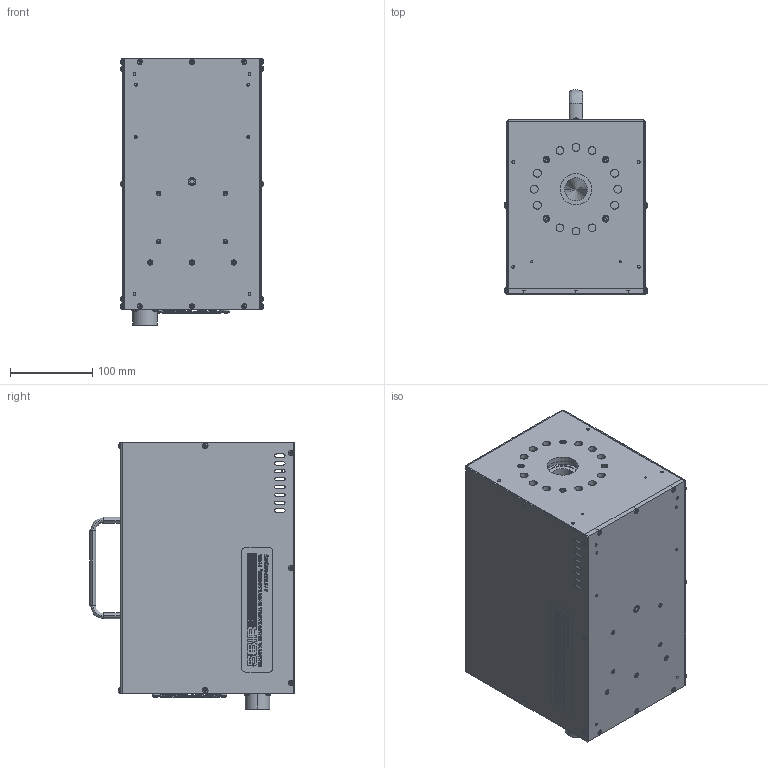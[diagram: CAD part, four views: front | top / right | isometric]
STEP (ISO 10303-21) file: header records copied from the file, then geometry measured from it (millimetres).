
FILE_DESCRIPTION (( 'STEP AP203' ), '1' );
FILE_NAME ('319-001-330_NC.STEP', '2014-09-16T16:37:33', ( '' ), ( '' ), 'SwSTEP 2.0', 'SolidWorks 2013', '' );
FILE_SCHEMA (( 'CONFIG_CONTROL_DESIGN' ));
Products named in the file (1): 319-001-330_NC
Bounding box: 173.66 x 247.96 x 324.1 mm (x, y, z)
Volume: 3967081.4 mm3; surface area: 833434.2 mm2
Topology: 58 solids, 61 shells, 3872 faces, 9894 edges, 6342 vertices
Faces by surface type: plane 2061, bspline 773, cylinder 631, cone 222, torus 137, sphere 48
Entity records: 154082 total; most frequent: CARTESIAN_POINT 64140, ORIENTED_EDGE 19636, DIRECTION 16490, EDGE_CURVE 9818, VERTEX_POINT 6342, LINE 5708, VECTOR 5708, AXIS2_PLACEMENT_3D 5391
